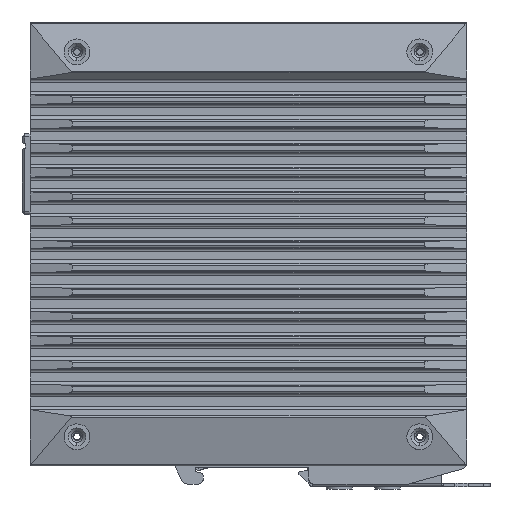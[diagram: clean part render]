
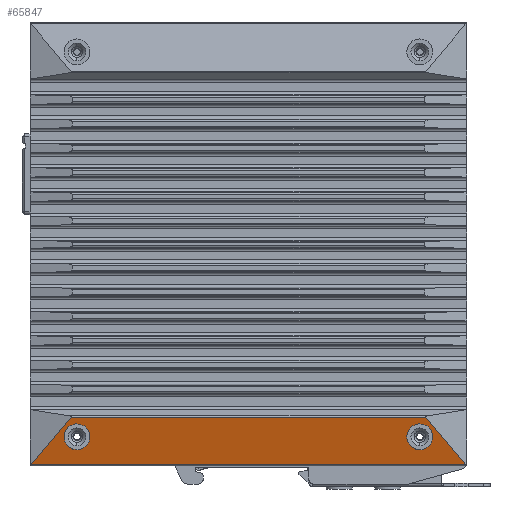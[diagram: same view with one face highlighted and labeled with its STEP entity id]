
A CAD part, front view. The second image highlights one B-rep face of the part: STEP entity #65847.
In plain terms, the highlighted planar face has unit normal (0, -0.963, -0.27).
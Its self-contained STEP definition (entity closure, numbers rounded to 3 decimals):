
#16814=CARTESIAN_POINT('',(-67.69,-4.702,
-68.135));
#16819=DIRECTION('',(-1.,0.,0.));
#16820=VECTOR('',#16819,134.381);
#16821=CARTESIAN_POINT('',(66.69,-4.702,
-68.135));
#16822=LINE('',#16821,#16820);
#16826=CARTESIAN_POINT('',(66.69,-4.702,
-68.135));
#16839=DIRECTION('',(0.633,-0.209,0.745));
#16840=VECTOR('',#16839,19.513);
#16841=CARTESIAN_POINT('',(-67.69,-4.702,
-68.135));
#16842=LINE('',#16841,#16840);
#16843=DIRECTION('',(0.633,0.209,-0.745));
#16844=VECTOR('',#16843,19.513);
#16845=CARTESIAN_POINT('',(54.341,-8.787,
-53.59));
#16846=LINE('',#16845,#16844);
#16862=CARTESIAN_POINT('',(-53.5,-6.004,-63.5));
#16863=CARTESIAN_POINT('',(-53.971,-6.004,-63.5));
#16864=CARTESIAN_POINT('',(-54.99,-6.052,
-63.329));
#16865=CARTESIAN_POINT('',(-56.413,-6.31,
-62.412));
#16866=CARTESIAN_POINT('',(-57.176,-6.642,
-61.229));
#16867=CARTESIAN_POINT('',(-57.458,-6.925,
-60.222));
#16868=CARTESIAN_POINT('',(-57.521,-7.128,-59.5));
#16869=CARTESIAN_POINT('',(-57.458,-7.33,
-58.778));
#16870=CARTESIAN_POINT('',(-57.176,-7.613,
-57.771));
#16871=CARTESIAN_POINT('',(-56.413,-7.945,
-56.588));
#16872=CARTESIAN_POINT('',(-54.99,-8.203,
-55.671));
#16873=CARTESIAN_POINT('',(-53.971,-8.251,-55.5));
#16874=CARTESIAN_POINT('',(-53.5,-8.251,-55.5));
#16876=CARTESIAN_POINT('',(-53.5,-8.251,-55.5));
#16877=CARTESIAN_POINT('',(-53.029,-8.251,-55.5));
#16878=CARTESIAN_POINT('',(-52.01,-8.203,
-55.671));
#16879=CARTESIAN_POINT('',(-50.587,-7.945,
-56.588));
#16880=CARTESIAN_POINT('',(-49.824,-7.613,
-57.771));
#16881=CARTESIAN_POINT('',(-49.542,-7.33,
-58.778));
#16882=CARTESIAN_POINT('',(-49.479,-7.128,-59.5));
#16883=CARTESIAN_POINT('',(-49.542,-6.925,
-60.222));
#16884=CARTESIAN_POINT('',(-49.824,-6.642,
-61.229));
#16885=CARTESIAN_POINT('',(-50.587,-6.31,
-62.412));
#16886=CARTESIAN_POINT('',(-52.01,-6.052,
-63.329));
#16887=CARTESIAN_POINT('',(-53.029,-6.004,-63.5));
#16888=CARTESIAN_POINT('',(-53.5,-6.004,-63.5));
#16890=CARTESIAN_POINT('',(52.5,-6.004,-63.5));
#16891=CARTESIAN_POINT('',(52.029,-6.004,-63.5));
#16892=CARTESIAN_POINT('',(51.01,-6.052,
-63.329));
#16893=CARTESIAN_POINT('',(49.587,-6.31,
-62.412));
#16894=CARTESIAN_POINT('',(48.824,-6.642,
-61.229));
#16895=CARTESIAN_POINT('',(48.542,-6.925,
-60.222));
#16896=CARTESIAN_POINT('',(48.479,-7.128,-59.5));
#16897=CARTESIAN_POINT('',(48.542,-7.33,
-58.778));
#16898=CARTESIAN_POINT('',(48.824,-7.613,
-57.771));
#16899=CARTESIAN_POINT('',(49.587,-7.945,
-56.588));
#16900=CARTESIAN_POINT('',(51.01,-8.203,
-55.671));
#16901=CARTESIAN_POINT('',(52.029,-8.251,-55.5));
#16902=CARTESIAN_POINT('',(52.5,-8.251,-55.5));
#16904=CARTESIAN_POINT('',(52.5,-8.251,-55.5));
#16905=CARTESIAN_POINT('',(52.971,-8.251,-55.5));
#16906=CARTESIAN_POINT('',(53.99,-8.203,
-55.671));
#16907=CARTESIAN_POINT('',(55.413,-7.945,
-56.588));
#16908=CARTESIAN_POINT('',(56.176,-7.613,
-57.771));
#16909=CARTESIAN_POINT('',(56.458,-7.33,
-58.778));
#16910=CARTESIAN_POINT('',(56.521,-7.128,-59.5));
#16911=CARTESIAN_POINT('',(56.458,-6.925,
-60.222));
#16912=CARTESIAN_POINT('',(56.176,-6.642,
-61.229));
#16913=CARTESIAN_POINT('',(55.413,-6.31,
-62.412));
#16914=CARTESIAN_POINT('',(53.99,-6.052,
-63.329));
#16915=CARTESIAN_POINT('',(52.971,-6.004,-63.5));
#16916=CARTESIAN_POINT('',(52.5,-6.004,-63.5));
#16922=DIRECTION('',(1.,0.,0.));
#16923=VECTOR('',#16922,109.682);
#16924=CARTESIAN_POINT('',(-55.341,-8.787,
-53.59));
#16925=LINE('',#16924,#16923);
#39250=VERTEX_POINT('',#16814);
#39259=VERTEX_POINT('',#16826);
#39268=CARTESIAN_POINT('',(-55.341,-8.787,
-53.59));
#39269=VERTEX_POINT('',#39268);
#39314=CARTESIAN_POINT('',(54.341,-8.787,
-53.59));
#39315=VERTEX_POINT('',#39314);
#39401=VERTEX_POINT('',#16862);
#39402=VERTEX_POINT('',#16874);
#39454=VERTEX_POINT('',#16890);
#39455=VERTEX_POINT('',#16902);
#65823=CARTESIAN_POINT('',(-68.,-8.9,-53.189));
#65824=DIRECTION('',(0.,0.963,0.27));
#65825=DIRECTION('',(0.,0.27,-0.963));
#65826=AXIS2_PLACEMENT_3D('',#65823,#65824,#65825);
#65827=PLANE('',#65826);
#65828=ORIENTED_EDGE('',*,*,#65784,.T.);
#65830=ORIENTED_EDGE('',*,*,#65829,.T.);
#65831=ORIENTED_EDGE('',*,*,#65813,.T.);
#65832=ORIENTED_EDGE('',*,*,#65767,.T.);
#65833=EDGE_LOOP('',(#65828,#65830,#65831,#65832));
#65834=FACE_OUTER_BOUND('',#65833,.F.);
#65836=ORIENTED_EDGE('',*,*,#65835,.F.);
#65838=ORIENTED_EDGE('',*,*,#65837,.F.);
#65839=EDGE_LOOP('',(#65836,#65838));
#65840=FACE_BOUND('',#65839,.F.);
#65842=ORIENTED_EDGE('',*,*,#65841,.F.);
#65844=ORIENTED_EDGE('',*,*,#65843,.F.);
#65845=EDGE_LOOP('',(#65842,#65844));
#65846=FACE_BOUND('',#65845,.F.);
#16875=B_SPLINE_CURVE_WITH_KNOTS('',3,(#16862,#16863,#16864,#16865,#16866,
#16867,#16868,#16869,#16870,#16871,#16872,#16873,#16874),.UNSPECIFIED.,.F.,.F.,(
4,1,1,1,1,1,1,1,1,1,4),(0.,0.125,0.25,0.375,0.438,0.5,0.563,
0.625,0.75,0.875,1.),.UNSPECIFIED.);
#16889=B_SPLINE_CURVE_WITH_KNOTS('',3,(#16876,#16877,#16878,#16879,#16880,
#16881,#16882,#16883,#16884,#16885,#16886,#16887,#16888),.UNSPECIFIED.,.F.,.F.,(
4,1,1,1,1,1,1,1,1,1,4),(0.,0.125,0.25,0.375,0.438,0.5,0.563,
0.625,0.75,0.875,1.),.UNSPECIFIED.);
#16903=B_SPLINE_CURVE_WITH_KNOTS('',3,(#16890,#16891,#16892,#16893,#16894,
#16895,#16896,#16897,#16898,#16899,#16900,#16901,#16902),.UNSPECIFIED.,.F.,.F.,(
4,1,1,1,1,1,1,1,1,1,4),(0.,0.125,0.25,0.375,0.438,0.5,0.563,
0.625,0.75,0.875,1.),.UNSPECIFIED.);
#16917=B_SPLINE_CURVE_WITH_KNOTS('',3,(#16904,#16905,#16906,#16907,#16908,
#16909,#16910,#16911,#16912,#16913,#16914,#16915,#16916),.UNSPECIFIED.,.F.,.F.,(
4,1,1,1,1,1,1,1,1,1,4),(0.,0.125,0.25,0.375,0.438,0.5,0.563,
0.625,0.75,0.875,1.),.UNSPECIFIED.);
#65767=EDGE_CURVE('',#39259,#39250,#16822,.T.);
#65784=EDGE_CURVE('',#39250,#39269,#16842,.T.);
#65813=EDGE_CURVE('',#39315,#39259,#16846,.T.);
#65829=EDGE_CURVE('',#39269,#39315,#16925,.T.);
#65835=EDGE_CURVE('',#39401,#39402,#16875,.T.);
#65837=EDGE_CURVE('',#39402,#39401,#16889,.T.);
#65841=EDGE_CURVE('',#39454,#39455,#16903,.T.);
#65843=EDGE_CURVE('',#39455,#39454,#16917,.T.);
#65847=ADVANCED_FACE('',(#65834,#65840,#65846),#65827,.F.);
